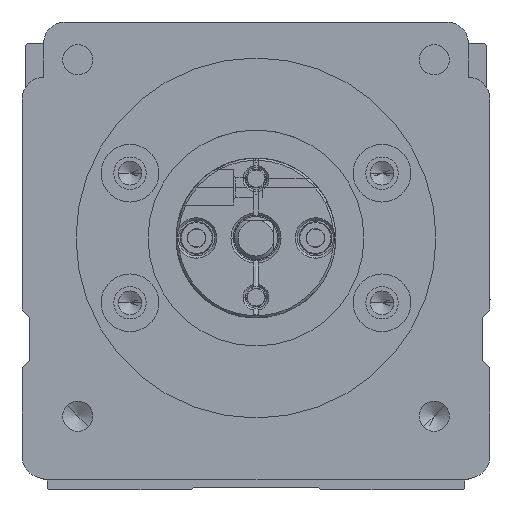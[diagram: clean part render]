
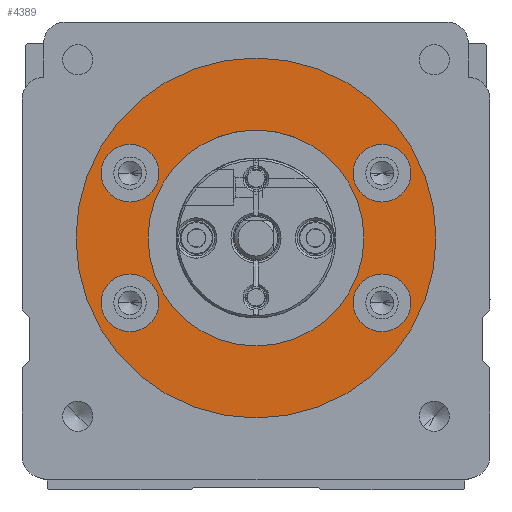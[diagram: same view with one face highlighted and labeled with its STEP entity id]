
A CAD part, front view. The second image highlights one B-rep face of the part: STEP entity #4389.
In plain terms, the highlighted planar face has unit normal (0, -1, 0).
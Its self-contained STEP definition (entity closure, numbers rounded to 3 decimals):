
#4389=ADVANCED_FACE('',(#10237,#10238,#10239,#10240,#10241,#10242),#10243,.F.);
#10237=FACE_BOUND('',#18522,.T.);
#10238=FACE_BOUND('',#18523,.T.);
#10239=FACE_BOUND('',#18524,.T.);
#10240=FACE_BOUND('',#18525,.T.);
#10241=FACE_BOUND('',#18526,.T.);
#10242=FACE_OUTER_BOUND('',#18527,.T.);
#10243=PLANE('',#18528);
#18522=EDGE_LOOP('',(#30612,#30613));
#18523=EDGE_LOOP('',(#30614,#30615));
#18524=EDGE_LOOP('',(#30616,#30617));
#18525=EDGE_LOOP('',(#30618,#30619));
#18526=EDGE_LOOP('',(#30620,#30621));
#18527=EDGE_LOOP('',(#30622,#30623));
#18528=AXIS2_PLACEMENT_3D('',#30624,#30625,#30626);
#30612=ORIENTED_EDGE('',*,*,#50411,.T.);
#30613=ORIENTED_EDGE('',*,*,#49626,.T.);
#30614=ORIENTED_EDGE('',*,*,#49677,.T.);
#30615=ORIENTED_EDGE('',*,*,#49089,.T.);
#30616=ORIENTED_EDGE('',*,*,#50412,.T.);
#30617=ORIENTED_EDGE('',*,*,#50413,.T.);
#30618=ORIENTED_EDGE('',*,*,#50414,.T.);
#30619=ORIENTED_EDGE('',*,*,#50415,.T.);
#30620=ORIENTED_EDGE('',*,*,#50416,.T.);
#30621=ORIENTED_EDGE('',*,*,#50417,.T.);
#30622=ORIENTED_EDGE('',*,*,#50418,.T.);
#30623=ORIENTED_EDGE('',*,*,#50419,.T.);
#30624=CARTESIAN_POINT('',(300.,-110.0,0.));
#30625=DIRECTION('',(0.,1.0,0.));
#30626=DIRECTION('',(1.0,0.,0.));
#49089=EDGE_CURVE('',#59363,#59367,#59369,.T.);
#49626=EDGE_CURVE('',#60263,#60267,#60269,.T.);
#49677=EDGE_CURVE('',#59367,#59363,#60349,.T.);
#50411=EDGE_CURVE('',#60267,#60263,#61541,.T.);
#50412=EDGE_CURVE('',#61542,#61543,#61544,.T.);
#50413=EDGE_CURVE('',#61543,#61542,#61545,.T.);
#50414=EDGE_CURVE('',#61546,#61547,#61548,.T.);
#50415=EDGE_CURVE('',#61547,#61546,#61549,.T.);
#50416=EDGE_CURVE('',#61550,#61551,#61552,.T.);
#50417=EDGE_CURVE('',#61551,#61550,#61553,.T.);
#50418=EDGE_CURVE('',#61554,#61555,#61556,.T.);
#50419=EDGE_CURVE('',#61555,#61554,#61557,.T.);
#59363=VERTEX_POINT('',#73899);
#59367=VERTEX_POINT('',#73904);
#59369=CIRCLE('',#73907,4.0);
#60263=VERTEX_POINT('',#75161);
#60267=VERTEX_POINT('',#75166);
#60269=CIRCLE('',#75169,4.0);
#60349=CIRCLE('',#75275,4.0);
#61541=CIRCLE('',#77032,4.0);
#61542=VERTEX_POINT('',#77033);
#61543=VERTEX_POINT('',#77034);
#61544=CIRCLE('',#77035,4.0);
#61545=CIRCLE('',#77036,4.0);
#61546=VERTEX_POINT('',#77037);
#61547=VERTEX_POINT('',#77038);
#61548=CIRCLE('',#77039,4.0);
#61549=CIRCLE('',#77040,4.0);
#61550=VERTEX_POINT('',#77041);
#61551=VERTEX_POINT('',#77042);
#61552=CIRCLE('',#77043,15.0);
#61553=CIRCLE('',#77044,15.0);
#61554=VERTEX_POINT('',#77045);
#61555=VERTEX_POINT('',#77046);
#61556=CIRCLE('',#77047,25.0);
#61557=CIRCLE('',#77048,25.0);
#73899=CARTESIAN_POINT('',(313.5,-110.0,-9.));
#73904=CARTESIAN_POINT('',(321.5,-110.0,-9.));
#73907=AXIS2_PLACEMENT_3D('',#89529,#89530,#89531);
#75161=CARTESIAN_POINT('',(278.5,-110.0,-9.));
#75166=CARTESIAN_POINT('',(286.5,-110.0,-9.));
#75169=AXIS2_PLACEMENT_3D('',#90295,#90296,#90297);
#75275=AXIS2_PLACEMENT_3D('',#90363,#90364,#90365);
#77032=AXIS2_PLACEMENT_3D('',#91377,#91378,#91379);
#77033=CARTESIAN_POINT('',(286.5,-110.0,9.));
#77034=CARTESIAN_POINT('',(278.5,-110.0,9.));
#77035=AXIS2_PLACEMENT_3D('',#91380,#91381,#91382);
#77036=AXIS2_PLACEMENT_3D('',#91383,#91384,#91385);
#77037=CARTESIAN_POINT('',(321.5,-110.0,9.));
#77038=CARTESIAN_POINT('',(313.5,-110.0,9.));
#77039=AXIS2_PLACEMENT_3D('',#91386,#91387,#91388);
#77040=AXIS2_PLACEMENT_3D('',#91389,#91390,#91391);
#77041=CARTESIAN_POINT('',(285.,-110.0,0.));
#77042=CARTESIAN_POINT('',(315.,-110.0,0.));
#77043=AXIS2_PLACEMENT_3D('',#91392,#91393,#91394);
#77044=AXIS2_PLACEMENT_3D('',#91395,#91396,#91397);
#77045=CARTESIAN_POINT('',(325.,-110.0,0.));
#77046=CARTESIAN_POINT('',(275.,-110.0,0.));
#77047=AXIS2_PLACEMENT_3D('',#91398,#91399,#91400);
#77048=AXIS2_PLACEMENT_3D('',#91401,#91402,#91403);
#89529=CARTESIAN_POINT('',(317.5,-110.0,-9.));
#89530=DIRECTION('',(0.,1.0,0.));
#89531=DIRECTION('',(-1.0,0.,0.));
#90295=CARTESIAN_POINT('',(282.5,-110.0,-9.));
#90296=DIRECTION('',(0.,1.0,0.));
#90297=DIRECTION('',(-1.0,0.,0.));
#90363=CARTESIAN_POINT('',(317.5,-110.0,-9.));
#90364=DIRECTION('',(0.,1.0,0.));
#90365=DIRECTION('',(-1.0,0.,0.));
#91377=CARTESIAN_POINT('',(282.5,-110.0,-9.));
#91378=DIRECTION('',(0.,1.0,0.));
#91379=DIRECTION('',(-1.0,0.,0.));
#91380=CARTESIAN_POINT('',(282.5,-110.0,9.));
#91381=DIRECTION('',(0.,1.0,0.));
#91382=DIRECTION('',(-1.0,0.,0.));
#91383=CARTESIAN_POINT('',(282.5,-110.0,9.));
#91384=DIRECTION('',(0.,1.0,0.));
#91385=DIRECTION('',(-1.0,0.,0.));
#91386=CARTESIAN_POINT('',(317.5,-110.0,9.));
#91387=DIRECTION('',(0.,1.0,0.));
#91388=DIRECTION('',(-1.0,0.,0.));
#91389=CARTESIAN_POINT('',(317.5,-110.0,9.));
#91390=DIRECTION('',(0.,1.0,0.));
#91391=DIRECTION('',(-1.0,0.,0.));
#91392=CARTESIAN_POINT('',(300.,-110.0,0.));
#91393=DIRECTION('',(0.,1.0,0.));
#91394=DIRECTION('',(1.0,0.,0.));
#91395=CARTESIAN_POINT('',(300.,-110.0,0.));
#91396=DIRECTION('',(0.,1.0,0.));
#91397=DIRECTION('',(1.0,0.,0.));
#91398=CARTESIAN_POINT('',(300.,-110.0,0.));
#91399=DIRECTION('',(0.,-1.0,0.));
#91400=DIRECTION('',(1.0,0.,0.));
#91401=CARTESIAN_POINT('',(300.,-110.0,0.));
#91402=DIRECTION('',(0.,-1.0,0.));
#91403=DIRECTION('',(1.0,0.,0.));
